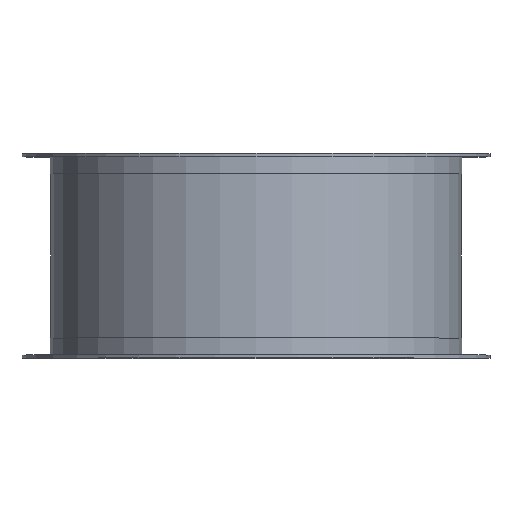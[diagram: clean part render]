
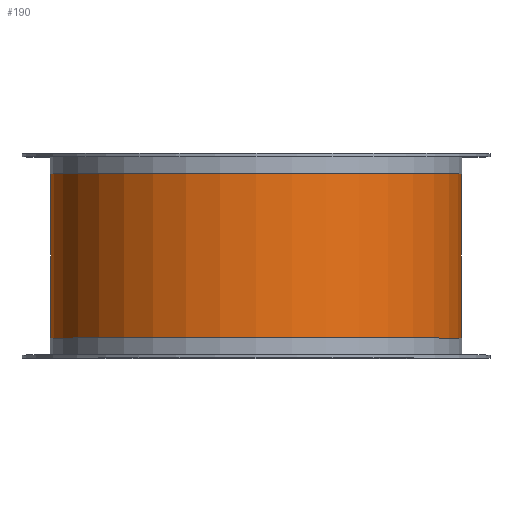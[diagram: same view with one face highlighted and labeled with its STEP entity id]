
A CAD part, top view. The second image highlights one B-rep face of the part: STEP entity #190.
In plain terms, the highlighted cylindrical face has radius 254.5 mm (diameter 509 mm), a partial arc.
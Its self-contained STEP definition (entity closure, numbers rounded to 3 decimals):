
#190=ADVANCED_FACE('',(#414),#415,.T.);
#414=FACE_OUTER_BOUND('',#629,.T.);
#415=CYLINDRICAL_SURFACE('',#630,254.5);
#629=EDGE_LOOP('',(#1137,#1138,#1139,#1140));
#630=AXIS2_PLACEMENT_3D('',#1141,#1142,#1143);
#1137=ORIENTED_EDGE('',*,*,#1145,.T.);
#1138=ORIENTED_EDGE('',*,*,#1302,.T.);
#1139=ORIENTED_EDGE('',*,*,#1147,.T.);
#1140=ORIENTED_EDGE('',*,*,#1341,.T.);
#1141=CARTESIAN_POINT('',(0.0,127.0,0.0));
#1142=DIRECTION('',(-0.0,1.0,0.0));
#1143=DIRECTION('',(1.0,0.0,0.0));
#1145=EDGE_CURVE('',#1345,#1346,#1347,.T.);
#1147=EDGE_CURVE('',#1350,#1348,#1351,.T.);
#1302=EDGE_CURVE('',#1346,#1350,#1598,.T.);
#1341=EDGE_CURVE('',#1348,#1345,#1637,.T.);
#1345=VERTEX_POINT('',#1641);
#1346=VERTEX_POINT('',#1642);
#1347=LINE('',#1643,#1644);
#1348=VERTEX_POINT('',#1645);
#1350=VERTEX_POINT('',#1647);
#1351=LINE('',#1648,#1649);
#1598=CIRCLE('',#1942,254.5);
#1637=CIRCLE('',#1981,254.5);
#1641=CARTESIAN_POINT('',(254.5,25.0,0.));
#1642=CARTESIAN_POINT('',(254.5,229.0,0.));
#1643=CARTESIAN_POINT('',(254.5,127.0,0.));
#1644=VECTOR('',#1984,1.0);
#1645=CARTESIAN_POINT('',(-254.5,25.0,0.));
#1647=CARTESIAN_POINT('',(-254.5,229.0,0.));
#1648=CARTESIAN_POINT('',(-254.5,127.0,0.));
#1649=VECTOR('',#1988,1.0);
#1942=AXIS2_PLACEMENT_3D('',#2245,#2246,#2247);
#1981=AXIS2_PLACEMENT_3D('',#2317,#2318,#2319);
#1984=DIRECTION('',(0.0,1.0,0.0));
#1988=DIRECTION('',(-0.0,-1.0,-0.0));
#2245=CARTESIAN_POINT('',(0.0,229.0,0.0));
#2246=DIRECTION('',(0.0,-1.0,0.));
#2247=DIRECTION('',(1.0,0.0,0.0));
#2317=CARTESIAN_POINT('',(0.0,25.0,0.0));
#2318=DIRECTION('',(-0.0,1.0,0.0));
#2319=DIRECTION('',(1.0,0.0,0.0));
